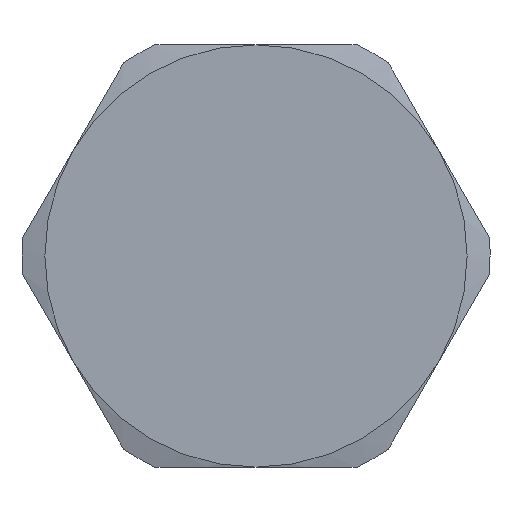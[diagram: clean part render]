
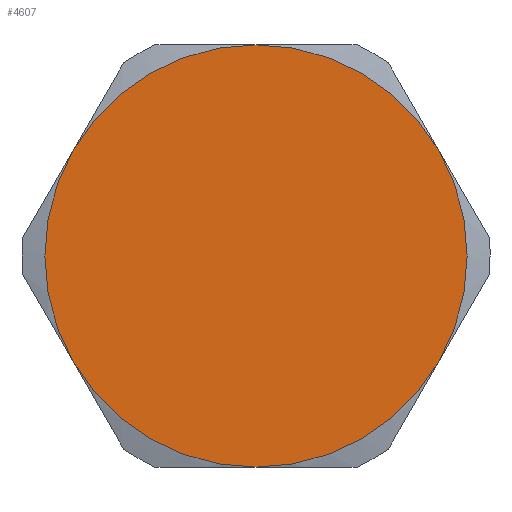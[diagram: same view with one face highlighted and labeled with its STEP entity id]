
A CAD part, left-side view. The second image highlights one B-rep face of the part: STEP entity #4607.
In plain terms, the highlighted planar face has unit normal (-1, 0, 0).
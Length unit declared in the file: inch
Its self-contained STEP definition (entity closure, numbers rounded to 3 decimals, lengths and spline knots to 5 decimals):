
#4061=CARTESIAN_POINT('',(-0.251,0.37889,-0.21875));
#4062=VERTEX_POINT('',#4061);
#4085=CARTESIAN_POINT('',(-0.251,0.,-0.4375));
#4086=VERTEX_POINT('',#4085);
#4100=CARTESIAN_POINT('',(-0.251,0.,0.0));
#4101=DIRECTION('',(-1.0,0.0,0.0));
#4102=DIRECTION('',(0.0,1.0,0.0));
#4103=AXIS2_PLACEMENT_3D('',#4100,#4101,#4102);
#4104=CIRCLE('',#4103,0.4375);
#4105=EDGE_CURVE('',#4062,#4086,#4104,.T.);
#4117=CARTESIAN_POINT('',(-0.251,0.37889,0.21875));
#4118=VERTEX_POINT('',#4117);
#4154=CARTESIAN_POINT('',(-0.251,0.,0.0));
#4155=DIRECTION('',(-1.0,0.0,0.0));
#4156=DIRECTION('',(0.0,1.0,0.0));
#4157=AXIS2_PLACEMENT_3D('',#4154,#4155,#4156);
#4158=CIRCLE('',#4157,0.4375);
#4159=EDGE_CURVE('',#4118,#4062,#4158,.T.);
#4171=CARTESIAN_POINT('',(-0.251,0.,0.4375));
#4172=VERTEX_POINT('',#4171);
#4208=CARTESIAN_POINT('',(-0.251,0.,0.0));
#4209=DIRECTION('',(-1.0,0.0,0.0));
#4210=DIRECTION('',(0.0,1.0,0.0));
#4211=AXIS2_PLACEMENT_3D('',#4208,#4209,#4210);
#4212=CIRCLE('',#4211,0.4375);
#4213=EDGE_CURVE('',#4172,#4118,#4212,.T.);
#4238=CARTESIAN_POINT('',(-0.251,-0.37889,0.21875));
#4239=VERTEX_POINT('',#4238);
#4240=CARTESIAN_POINT('',(-0.251,0.,0.0));
#4241=DIRECTION('',(-1.0,0.0,0.0));
#4242=DIRECTION('',(0.0,1.0,0.0));
#4243=AXIS2_PLACEMENT_3D('',#4240,#4241,#4242);
#4244=CIRCLE('',#4243,0.4375);
#4245=EDGE_CURVE('',#4239,#4172,#4244,.T.);
#4292=CARTESIAN_POINT('',(-0.251,-0.37889,-0.21875));
#4293=VERTEX_POINT('',#4292);
#4294=CARTESIAN_POINT('',(-0.251,0.,0.0));
#4295=DIRECTION('',(-1.0,0.0,0.0));
#4296=DIRECTION('',(0.0,1.0,0.0));
#4297=AXIS2_PLACEMENT_3D('',#4294,#4295,#4296);
#4298=CIRCLE('',#4297,0.4375);
#4299=EDGE_CURVE('',#4293,#4239,#4298,.T.);
#4346=CARTESIAN_POINT('',(-0.251,0.,0.0));
#4347=DIRECTION('',(-1.0,0.0,0.0));
#4348=DIRECTION('',(0.0,1.0,0.0));
#4349=AXIS2_PLACEMENT_3D('',#4346,#4347,#4348);
#4350=CIRCLE('',#4349,0.4375);
#4351=EDGE_CURVE('',#4086,#4293,#4350,.T.);
#4594=CARTESIAN_POINT('',(-0.251,0.,0.));
#4595=DIRECTION('',(-1.0,0.0,0.0));
#4596=DIRECTION('',(0.0,-1.0,0.0));
#4597=AXIS2_PLACEMENT_3D('',#4594,#4595,#4596);
#4598=PLANE('',#4597);
#4599=ORIENTED_EDGE('',*,*,#4351,.T.);
#4600=ORIENTED_EDGE('',*,*,#4299,.T.);
#4601=ORIENTED_EDGE('',*,*,#4245,.T.);
#4602=ORIENTED_EDGE('',*,*,#4213,.T.);
#4603=ORIENTED_EDGE('',*,*,#4159,.T.);
#4604=ORIENTED_EDGE('',*,*,#4105,.T.);
#4605=EDGE_LOOP('',(#4599,#4600,#4601,#4602,#4603,#4604));
#4606=FACE_OUTER_BOUND('',#4605,.T.);
#4607=ADVANCED_FACE('',(#4606),#4598,.T.);
